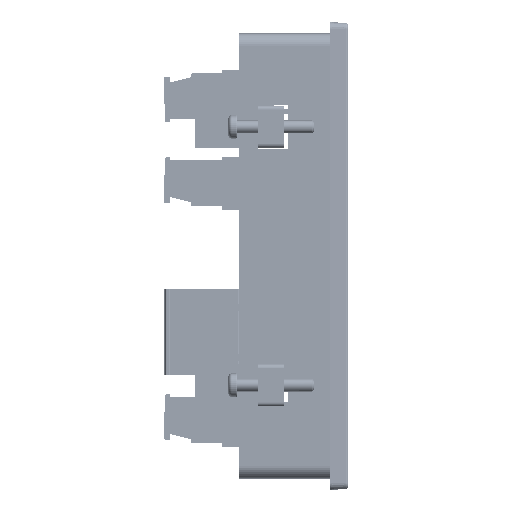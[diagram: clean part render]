
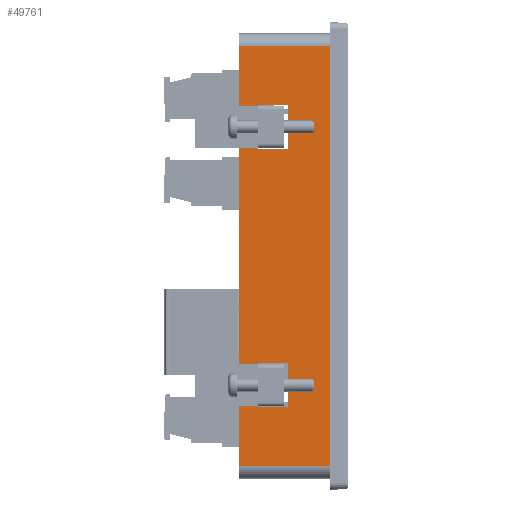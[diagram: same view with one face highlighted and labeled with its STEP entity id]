
A CAD part, front view. The second image highlights one B-rep face of the part: STEP entity #49761.
In plain terms, the highlighted planar face has unit normal (0, -1, 0).
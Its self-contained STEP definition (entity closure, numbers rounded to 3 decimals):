
#49761=ADVANCED_FACE('',(#110835,#110837,#110839),#110841,.F.);
#110835=FACE_BOUND('',#110836,.T.);
#110836=EDGE_LOOP('',(#156441,#156442,#156443,#156444));
#110837=FACE_BOUND('',#110838,.T.);
#110838=EDGE_LOOP('',(#156445,#156446,#156447,#156448));
#110839=FACE_BOUND('',#110840,.T.);
#110840=EDGE_LOOP('',(#156449,#156450,#156451,#156452));
#110841=PLANE('',#110842);
#110842=AXIS2_PLACEMENT_3D('',#110843,#110844,#110845);
#110843=CARTESIAN_POINT('',(11.467,-52.541,52.538));
#110844=DIRECTION('',(0.,1.,0.));
#110845=DIRECTION('',(0.,0.,1.));
#156441=ORIENTED_EDGE('',*,*,#192452,.T.);
#156442=ORIENTED_EDGE('',*,*,#192453,.T.);
#156443=ORIENTED_EDGE('',*,*,#192338,.T.);
#156444=ORIENTED_EDGE('',*,*,#192451,.T.);
#156445=ORIENTED_EDGE('',*,*,#192454,.F.);
#156446=ORIENTED_EDGE('',*,*,#192455,.F.);
#156447=ORIENTED_EDGE('',*,*,#192456,.F.);
#156448=ORIENTED_EDGE('',*,*,#192457,.F.);
#156449=ORIENTED_EDGE('',*,*,#192458,.F.);
#156450=ORIENTED_EDGE('',*,*,#192459,.F.);
#156451=ORIENTED_EDGE('',*,*,#192460,.F.);
#156452=ORIENTED_EDGE('',*,*,#192461,.F.);
#192338=EDGE_CURVE('',#239229,#239227,#239230,.T.);
#192451=EDGE_CURVE('',#239227,#239451,#239453,.T.);
#192452=EDGE_CURVE('',#239451,#239454,#239455,.T.);
#192453=EDGE_CURVE('',#239454,#239229,#239456,.T.);
#192454=EDGE_CURVE('',#239457,#239458,#239459,.T.);
#192455=EDGE_CURVE('',#239460,#239457,#239461,.T.);
#192456=EDGE_CURVE('',#239462,#239460,#239463,.T.);
#192457=EDGE_CURVE('',#239458,#239462,#239464,.T.);
#192458=EDGE_CURVE('',#239465,#239466,#239467,.T.);
#192459=EDGE_CURVE('',#239468,#239465,#239469,.T.);
#192460=EDGE_CURVE('',#239470,#239468,#239471,.T.);
#192461=EDGE_CURVE('',#239466,#239470,#239472,.T.);
#239227=VERTEX_POINT('',#257157);
#239229=VERTEX_POINT('',#257162);
#239230=LINE('',#257163,#257164);
#239451=VERTEX_POINT('',#257652);
#239453=LINE('',#257657,#257658);
#239454=VERTEX_POINT('',#257660);
#239455=LINE('',#257661,#257662);
#239456=LINE('',#257664,#257665);
#239457=VERTEX_POINT('',#257667);
#239458=VERTEX_POINT('',#257668);
#239459=LINE('',#257669,#257670);
#239460=VERTEX_POINT('',#257672);
#239461=LINE('',#257673,#257674);
#239462=VERTEX_POINT('',#257676);
#239463=LINE('',#257677,#257678);
#239464=LINE('',#257680,#257681);
#239465=VERTEX_POINT('',#257683);
#239466=VERTEX_POINT('',#257684);
#239467=LINE('',#257685,#257686);
#239468=VERTEX_POINT('',#257688);
#239469=LINE('',#257689,#257690);
#239470=VERTEX_POINT('',#257692);
#239471=LINE('',#257693,#257694);
#239472=LINE('',#257696,#257697);
#257157=CARTESIAN_POINT('',(0.013,-52.541,-49.552));
#257162=CARTESIAN_POINT('',(0.013,-52.541,49.55));
#257163=CARTESIAN_POINT('',(0.013,-52.541,49.55));
#257164=VECTOR('',#257165,1.);
#257165=DIRECTION('',(0.,0.,-1.));
#257652=CARTESIAN_POINT('',(21.527,-52.541,-49.552));
#257657=CARTESIAN_POINT('',(0.013,-52.541,-49.552));
#257658=VECTOR('',#257659,1.);
#257659=DIRECTION('',(1.,0.,0.));
#257660=CARTESIAN_POINT('',(21.527,-52.541,49.55));
#257661=CARTESIAN_POINT('',(21.527,-52.541,-49.552));
#257662=VECTOR('',#257663,1.);
#257663=DIRECTION('',(0.,0.,1.));
#257664=CARTESIAN_POINT('',(21.527,-52.541,49.55));
#257665=VECTOR('',#257666,1.);
#257666=DIRECTION('',(-1.,0.,0.));
#257667=CARTESIAN_POINT('',(11.467,-52.541,25.357));
#257668=CARTESIAN_POINT('',(11.467,-52.541,35.616));
#257669=CARTESIAN_POINT('',(11.467,-52.541,25.357));
#257670=VECTOR('',#257671,1.);
#257671=DIRECTION('',(0.,0.,1.));
#257672=CARTESIAN_POINT('',(4.495,-52.541,25.357));
#257673=CARTESIAN_POINT('',(4.495,-52.541,25.357));
#257674=VECTOR('',#257675,1.);
#257675=DIRECTION('',(1.,0.,0.));
#257676=CARTESIAN_POINT('',(4.495,-52.541,35.616));
#257677=CARTESIAN_POINT('',(4.495,-52.541,35.616));
#257678=VECTOR('',#257679,1.);
#257679=DIRECTION('',(0.,0.,-1.));
#257680=CARTESIAN_POINT('',(11.467,-52.541,35.616));
#257681=VECTOR('',#257682,1.);
#257682=DIRECTION('',(-1.,0.,0.));
#257683=CARTESIAN_POINT('',(11.467,-52.541,-35.618));
#257684=CARTESIAN_POINT('',(11.467,-52.541,-25.359));
#257685=CARTESIAN_POINT('',(11.467,-52.541,-35.618));
#257686=VECTOR('',#257687,1.);
#257687=DIRECTION('',(0.,0.,1.));
#257688=CARTESIAN_POINT('',(4.495,-52.541,-35.618));
#257689=CARTESIAN_POINT('',(4.495,-52.541,-35.618));
#257690=VECTOR('',#257691,1.);
#257691=DIRECTION('',(1.,0.,0.));
#257692=CARTESIAN_POINT('',(4.495,-52.541,-25.359));
#257693=CARTESIAN_POINT('',(4.495,-52.541,-25.359));
#257694=VECTOR('',#257695,1.);
#257695=DIRECTION('',(0.,0.,-1.));
#257696=CARTESIAN_POINT('',(11.467,-52.541,-25.359));
#257697=VECTOR('',#257698,1.);
#257698=DIRECTION('',(-1.,0.,0.));
